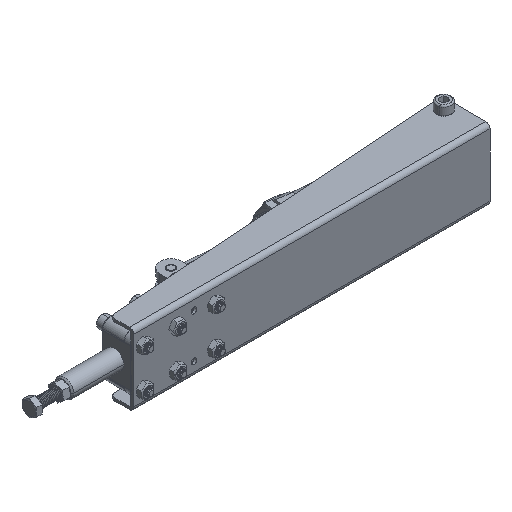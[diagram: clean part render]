
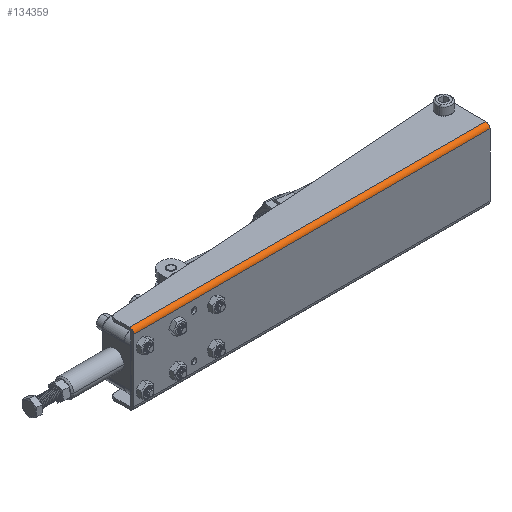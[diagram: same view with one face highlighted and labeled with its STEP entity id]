
A CAD part, isometric view. The second image highlights one B-rep face of the part: STEP entity #134359.
In plain terms, the highlighted cylindrical face has radius 4.5 mm (diameter 9 mm), a partial arc.
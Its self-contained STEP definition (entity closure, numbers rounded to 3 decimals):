
#131851 = PLANE('',#131852);
#131852 = AXIS2_PLACEMENT_3D('',#131853,#131854,#131855);
#131853 = CARTESIAN_POINT('',(0.,0.,76.));
#131854 = DIRECTION('',(0.,1.,0.));
#131855 = DIRECTION('',(0.,-0.,1.));
#132745 = PLANE('',#132746);
#132746 = AXIS2_PLACEMENT_3D('',#132747,#132748,#132749);
#132747 = CARTESIAN_POINT('',(5.,20.057,76.));
#132748 = DIRECTION('',(-0.,0.,-1.));
#132749 = DIRECTION('',(-1.,0.,0.));
#132960 = PLANE('',#132961);
#132961 = AXIS2_PLACEMENT_3D('',#132962,#132963,#132964);
#132962 = CARTESIAN_POINT('',(380.,0.,76.));
#132963 = DIRECTION('',(-1.,0.,0.));
#132964 = DIRECTION('',(0.,0.,1.));
#133095 = PLANE('',#133096);
#133096 = AXIS2_PLACEMENT_3D('',#133097,#133098,#133099);
#133097 = CARTESIAN_POINT('',(0.,0.,76.));
#133098 = DIRECTION('',(1.,0.,0.));
#133099 = DIRECTION('',(0.,0.,-1.));
#133215 = VERTEX_POINT('',#133216);
#133216 = CARTESIAN_POINT('',(0.,4.5,76.));
#133237 = EDGE_CURVE('',#133215,#133238,#133240,.T.);
#133238 = VERTEX_POINT('',#133239);
#133239 = CARTESIAN_POINT('',(380.,4.5,76.));
#133240 = SURFACE_CURVE('',#133241,(#133245,#133252),.PCURVE_S1.);
#133241 = LINE('',#133242,#133243);
#133242 = CARTESIAN_POINT('',(5.,4.5,76.));
#133243 = VECTOR('',#133244,1.);
#133244 = DIRECTION('',(1.,0.,0.));
#133245 = PCURVE('',#132745,#133246);
#133246 = DEFINITIONAL_REPRESENTATION('',(#133247),#133251);
#133247 = LINE('',#133248,#133249);
#133248 = CARTESIAN_POINT('',(0.,-15.557));
#133249 = VECTOR('',#133250,1.);
#133250 = DIRECTION('',(-1.,0.));
#133251 = ( GEOMETRIC_REPRESENTATION_CONTEXT(2) 
PARAMETRIC_REPRESENTATION_CONTEXT() REPRESENTATION_CONTEXT('2D SPACE',''
  ) );
#133252 = PCURVE('',#133253,#133258);
#133253 = CYLINDRICAL_SURFACE('',#133254,4.5);
#133254 = AXIS2_PLACEMENT_3D('',#133255,#133256,#133257);
#133255 = CARTESIAN_POINT('',(5.,4.5,71.5));
#133256 = DIRECTION('',(1.,0.,0.));
#133257 = DIRECTION('',(0.,0.,-1.));
#133258 = DEFINITIONAL_REPRESENTATION('',(#133259),#133263);
#133259 = LINE('',#133260,#133261);
#133260 = CARTESIAN_POINT('',(3.142,0.));
#133261 = VECTOR('',#133262,1.);
#133262 = DIRECTION('',(0.,1.));
#133263 = ( GEOMETRIC_REPRESENTATION_CONTEXT(2) 
PARAMETRIC_REPRESENTATION_CONTEXT() REPRESENTATION_CONTEXT('2D SPACE',''
  ) );
#133577 = VERTEX_POINT('',#133578);
#133578 = CARTESIAN_POINT('',(0.,0.,71.5));
#133599 = EDGE_CURVE('',#133577,#133215,#133600,.T.);
#133600 = SURFACE_CURVE('',#133601,(#133606,#133617),.PCURVE_S1.);
#133601 = CIRCLE('',#133602,4.5);
#133602 = AXIS2_PLACEMENT_3D('',#133603,#133604,#133605);
#133603 = CARTESIAN_POINT('',(0.,4.5,71.5));
#133604 = DIRECTION('',(-1.,-0.,-0.));
#133605 = DIRECTION('',(0.,0.,-1.));
#133606 = PCURVE('',#133095,#133607);
#133607 = DEFINITIONAL_REPRESENTATION('',(#133608),#133616);
#133608 = ( BOUNDED_CURVE() B_SPLINE_CURVE(2,(#133609,#133610,#133611,
    #133612,#133613,#133614,#133615),.UNSPECIFIED.,.T.,.F.) 
B_SPLINE_CURVE_WITH_KNOTS((1,2,2,2,2,1),(-2.094,0.,
    2.094,4.189,6.283,8.378),
.UNSPECIFIED.) CURVE() GEOMETRIC_REPRESENTATION_ITEM() 
RATIONAL_B_SPLINE_CURVE((1.,0.5,1.,0.5,1.,0.5,1.)) REPRESENTATION_ITEM(
  '') );
#133609 = CARTESIAN_POINT('',(9.,4.5));
#133610 = CARTESIAN_POINT('',(9.,-3.294));
#133611 = CARTESIAN_POINT('',(2.25,0.603));
#133612 = CARTESIAN_POINT('',(-4.5,4.5));
#133613 = CARTESIAN_POINT('',(2.25,8.397));
#133614 = CARTESIAN_POINT('',(9.,12.294));
#133615 = CARTESIAN_POINT('',(9.,4.5));
#133616 = ( GEOMETRIC_REPRESENTATION_CONTEXT(2) 
PARAMETRIC_REPRESENTATION_CONTEXT() REPRESENTATION_CONTEXT('2D SPACE',''
  ) );
#133617 = PCURVE('',#133253,#133618);
#133618 = DEFINITIONAL_REPRESENTATION('',(#133619),#133623);
#133619 = LINE('',#133620,#133621);
#133620 = CARTESIAN_POINT('',(6.283,-5.));
#133621 = VECTOR('',#133622,1.);
#133622 = DIRECTION('',(-1.,0.));
#133623 = ( GEOMETRIC_REPRESENTATION_CONTEXT(2) 
PARAMETRIC_REPRESENTATION_CONTEXT() REPRESENTATION_CONTEXT('2D SPACE',''
  ) );
#133950 = VERTEX_POINT('',#133951);
#133951 = CARTESIAN_POINT('',(380.,0.,71.5));
#133972 = EDGE_CURVE('',#133950,#133577,#133973,.T.);
#133973 = SURFACE_CURVE('',#133974,(#133978,#133985),.PCURVE_S1.);
#133974 = LINE('',#133975,#133976);
#133975 = CARTESIAN_POINT('',(0.,0.,71.5));
#133976 = VECTOR('',#133977,1.);
#133977 = DIRECTION('',(-1.,-0.,-0.));
#133978 = PCURVE('',#131851,#133979);
#133979 = DEFINITIONAL_REPRESENTATION('',(#133980),#133984);
#133980 = LINE('',#133981,#133982);
#133981 = CARTESIAN_POINT('',(-4.5,0.));
#133982 = VECTOR('',#133983,1.);
#133983 = DIRECTION('',(0.,-1.));
#133984 = ( GEOMETRIC_REPRESENTATION_CONTEXT(2) 
PARAMETRIC_REPRESENTATION_CONTEXT() REPRESENTATION_CONTEXT('2D SPACE',''
  ) );
#133985 = PCURVE('',#133253,#133986);
#133986 = DEFINITIONAL_REPRESENTATION('',(#133987),#133991);
#133987 = LINE('',#133988,#133989);
#133988 = CARTESIAN_POINT('',(4.712,-5.));
#133989 = VECTOR('',#133990,1.);
#133990 = DIRECTION('',(0.,-1.));
#133991 = ( GEOMETRIC_REPRESENTATION_CONTEXT(2) 
PARAMETRIC_REPRESENTATION_CONTEXT() REPRESENTATION_CONTEXT('2D SPACE',''
  ) );
#134144 = EDGE_CURVE('',#133238,#133950,#134145,.T.);
#134145 = SURFACE_CURVE('',#134146,(#134151,#134162),.PCURVE_S1.);
#134146 = CIRCLE('',#134147,4.5);
#134147 = AXIS2_PLACEMENT_3D('',#134148,#134149,#134150);
#134148 = CARTESIAN_POINT('',(380.,4.5,71.5));
#134149 = DIRECTION('',(1.,0.,-0.));
#134150 = DIRECTION('',(0.,0.,1.));
#134151 = PCURVE('',#132960,#134152);
#134152 = DEFINITIONAL_REPRESENTATION('',(#134153),#134161);
#134153 = ( BOUNDED_CURVE() B_SPLINE_CURVE(2,(#134154,#134155,#134156,
    #134157,#134158,#134159,#134160),.UNSPECIFIED.,.T.,.F.) 
B_SPLINE_CURVE_WITH_KNOTS((1,2,2,2,2,1),(-2.094,0.,
    2.094,4.189,6.283,8.378),
.UNSPECIFIED.) CURVE() GEOMETRIC_REPRESENTATION_ITEM() 
RATIONAL_B_SPLINE_CURVE((1.,0.5,1.,0.5,1.,0.5,1.)) REPRESENTATION_ITEM(
  '') );
#134154 = CARTESIAN_POINT('',(0.,4.5));
#134155 = CARTESIAN_POINT('',(0.,-3.294));
#134156 = CARTESIAN_POINT('',(-6.75,0.603));
#134157 = CARTESIAN_POINT('',(-13.5,4.5));
#134158 = CARTESIAN_POINT('',(-6.75,8.397));
#134159 = CARTESIAN_POINT('',(0.,12.294));
#134160 = CARTESIAN_POINT('',(0.,4.5));
#134161 = ( GEOMETRIC_REPRESENTATION_CONTEXT(2) 
PARAMETRIC_REPRESENTATION_CONTEXT() REPRESENTATION_CONTEXT('2D SPACE',''
  ) );
#134162 = PCURVE('',#133253,#134163);
#134163 = DEFINITIONAL_REPRESENTATION('',(#134164),#134168);
#134164 = LINE('',#134165,#134166);
#134165 = CARTESIAN_POINT('',(3.142,375.));
#134166 = VECTOR('',#134167,1.);
#134167 = DIRECTION('',(1.,0.));
#134168 = ( GEOMETRIC_REPRESENTATION_CONTEXT(2) 
PARAMETRIC_REPRESENTATION_CONTEXT() REPRESENTATION_CONTEXT('2D SPACE',''
  ) );
#134359 = ADVANCED_FACE('',(#134360),#133253,.T.);
#134360 = FACE_BOUND('',#134361,.T.);
#134361 = EDGE_LOOP('',(#134362,#134363,#134364,#134365));
#134362 = ORIENTED_EDGE('',*,*,#133599,.F.);
#134363 = ORIENTED_EDGE('',*,*,#133972,.F.);
#134364 = ORIENTED_EDGE('',*,*,#134144,.F.);
#134365 = ORIENTED_EDGE('',*,*,#133237,.F.);
